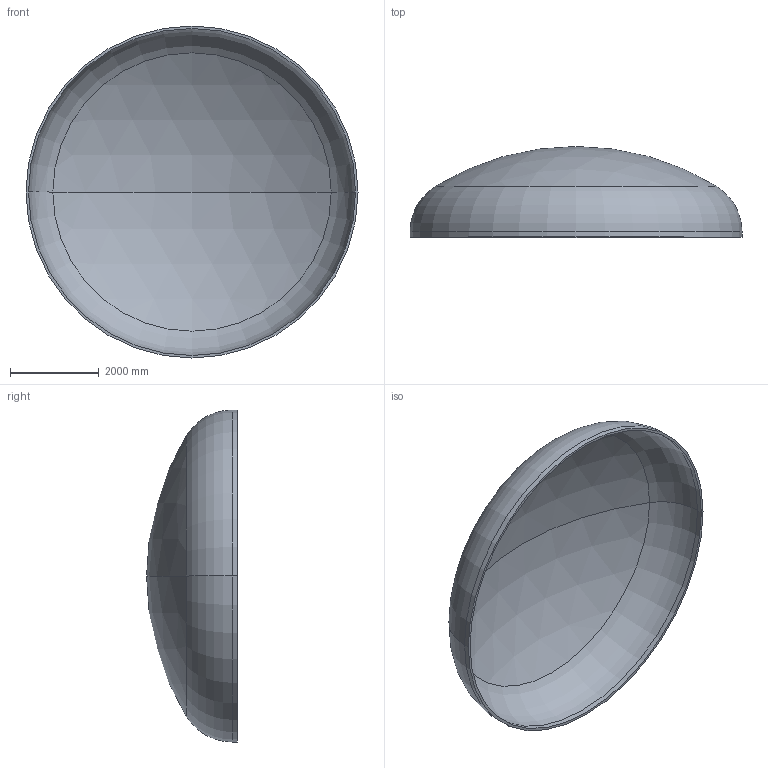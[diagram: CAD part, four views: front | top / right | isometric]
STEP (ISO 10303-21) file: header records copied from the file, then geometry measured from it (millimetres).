
FILE_DESCRIPTION (( 'STEP AP203' ), '1' );
FILE_NAME ('DIN 28013 Korbbogenform_-_Boden DIN 28013 - 7500 x 120 - I - s=56.step', '2016-07-04T10:54:55', ( '' ), ( '' ), 'SwSTEP 2.0', 'SolidWorks 2013', '' );
FILE_SCHEMA (( 'CONFIG_CONTROL_DESIGN' ));
Length unit declared in the file: millimetre
Products named in the file (1): DIN 28013 Korbbogenform_-_Boden DIN 28013 - 7500 x 120 - I - s=56
Bounding box: 7500 x 2049.56 x 7500 mm (x, y, z)
Volume: 3549982958 mm3; surface area: 128101241 mm2
Topology: 1 solids, 1 shells, 13 faces, 24 edges, 14 vertices
Faces by surface type: torus 4, cylinder 4, sphere 4, plane 1
Entity records: 407 total; most frequent: DIRECTION 72, CARTESIAN_POINT 52, ORIENTED_EDGE 48, AXIS2_PLACEMENT_3D 34, EDGE_CURVE 24, CIRCLE 20, VERTEX_POINT 14, EDGE_LOOP 14
